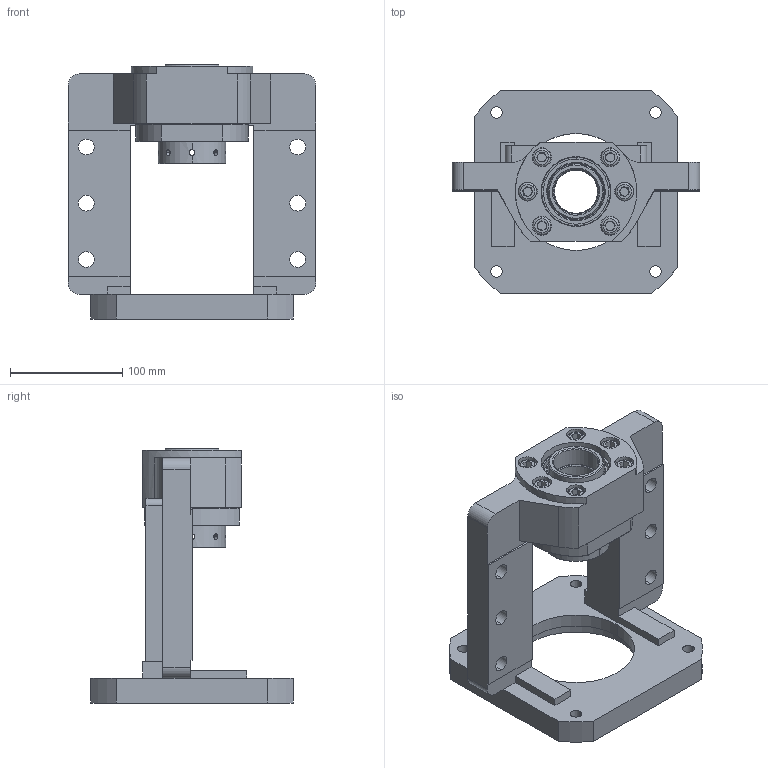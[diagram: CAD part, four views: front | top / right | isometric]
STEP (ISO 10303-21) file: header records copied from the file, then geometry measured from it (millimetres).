
FILE_DESCRIPTION (( 'STEP AP203' ), '1' );
FILE_NAME ('MBCS40L-H.STEP', '2024-10-21T07:16:11', ( '' ), ( '' ), 'SwSTEP 2.0', 'SolidWorks 2018', '' );
FILE_SCHEMA (( 'CONFIG_CONTROL_DESIGN' ));
Length unit declared in the file: millimetre
Products named in the file (1): MBCS40L-H
Bounding box: 220 x 180 x 226 mm (x, y, z)
Surface area: 228568.1 mm2 (no closed solid volume)
Topology: 0 solids, 21 shells, 330 faces, 927 edges, 610 vertices
Faces by surface type: cylinder 125, plane 117, cone 60, torus 18, bspline 10
Entity records: 24105 total; most frequent: CARTESIAN_POINT 15590, DIRECTION 1807, ORIENTED_EDGE 1625, EDGE_CURVE 919, AXIS2_PLACEMENT_3D 691, VERTEX_POINT 610, LINE 425, VECTOR 425
